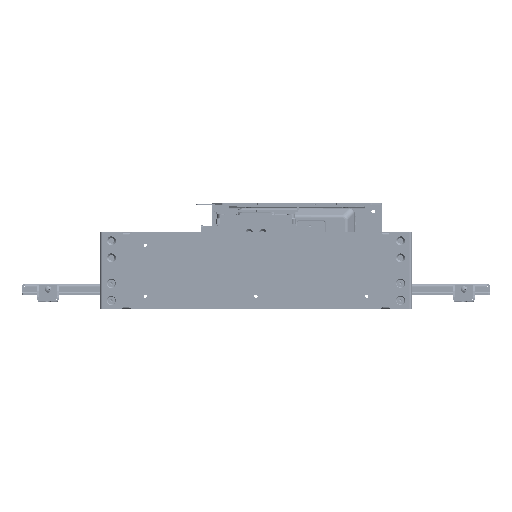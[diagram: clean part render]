
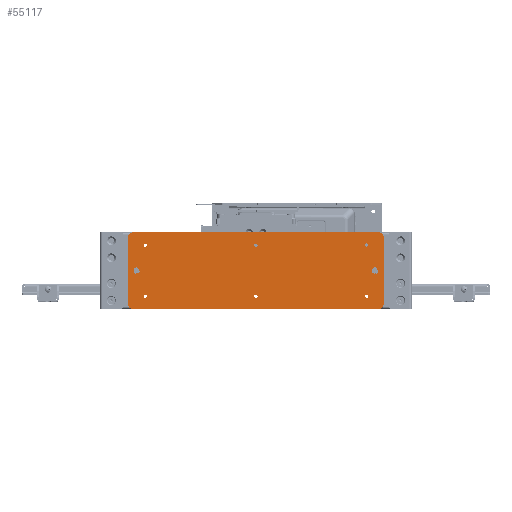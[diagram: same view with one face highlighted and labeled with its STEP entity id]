
A CAD part, top view. The second image highlights one B-rep face of the part: STEP entity #55117.
In plain terms, the highlighted planar face has unit normal (0, 0, 1) as drawn and (0, 0, -1) by its records, which use the part's own axes.
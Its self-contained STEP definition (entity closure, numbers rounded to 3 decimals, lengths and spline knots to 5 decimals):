
#5050=LINE('',#88676,#9993);
#5054=LINE('',#88685,#9997);
#5058=LINE('',#88694,#10001);
#5064=LINE('',#88718,#10007);
#9993=VECTOR('',#71876,1.);
#9997=VECTOR('',#71882,1.);
#10001=VECTOR('',#71888,1.);
#10007=VECTOR('',#71908,1.);
#18860=ORIENTED_EDGE('',*,*,#31558,.T.);
#18861=ORIENTED_EDGE('',*,*,#31559,.T.);
#18862=ORIENTED_EDGE('',*,*,#31560,.T.);
#18863=ORIENTED_EDGE('',*,*,#31561,.T.);
#18864=ORIENTED_EDGE('',*,*,#31562,.T.);
#18865=ORIENTED_EDGE('',*,*,#31563,.T.);
#18866=ORIENTED_EDGE('',*,*,#31541,.T.);
#18867=ORIENTED_EDGE('',*,*,#31543,.T.);
#18868=ORIENTED_EDGE('',*,*,#31546,.F.);
#18869=ORIENTED_EDGE('',*,*,#31564,.T.);
#18870=ORIENTED_EDGE('',*,*,#31536,.F.);
#18871=ORIENTED_EDGE('',*,*,#31565,.T.);
#18872=ORIENTED_EDGE('',*,*,#31532,.T.);
#18873=ORIENTED_EDGE('',*,*,#31566,.T.);
#18874=ORIENTED_EDGE('',*,*,#31528,.T.);
#18875=ORIENTED_EDGE('',*,*,#31567,.T.);
#31528=EDGE_CURVE('',#38398,#38399,#5050,.T.);
#31532=EDGE_CURVE('',#38402,#38403,#5054,.T.);
#31536=EDGE_CURVE('',#38406,#38407,#5058,.T.);
#31541=EDGE_CURVE('',#38411,#38411,#42525,.F.);
#31543=EDGE_CURVE('',#38413,#38413,#42527,.F.);
#31546=EDGE_CURVE('',#38416,#38417,#5064,.T.);
#31558=EDGE_CURVE('',#38424,#38424,#42538,.F.);
#31559=EDGE_CURVE('',#38425,#38425,#42539,.F.);
#31560=EDGE_CURVE('',#38426,#38426,#42540,.F.);
#31561=EDGE_CURVE('',#38427,#38427,#42541,.F.);
#31562=EDGE_CURVE('',#38428,#38428,#42542,.F.);
#31563=EDGE_CURVE('',#38429,#38429,#42543,.F.);
#31564=EDGE_CURVE('',#38416,#38407,#42544,.T.);
#31565=EDGE_CURVE('',#38406,#38402,#42545,.T.);
#31566=EDGE_CURVE('',#38403,#38398,#42546,.T.);
#31567=EDGE_CURVE('',#38399,#38417,#42547,.T.);
#38398=VERTEX_POINT('',#88677);
#38399=VERTEX_POINT('',#88678);
#38402=VERTEX_POINT('',#88686);
#38403=VERTEX_POINT('',#88687);
#38406=VERTEX_POINT('',#88695);
#38407=VERTEX_POINT('',#88696);
#38411=VERTEX_POINT('',#88706);
#38413=VERTEX_POINT('',#88711);
#38416=VERTEX_POINT('',#88717);
#38417=VERTEX_POINT('',#88719);
#38424=VERTEX_POINT('',#88740);
#38425=VERTEX_POINT('',#88742);
#38426=VERTEX_POINT('',#88744);
#38427=VERTEX_POINT('',#88746);
#38428=VERTEX_POINT('',#88748);
#38429=VERTEX_POINT('',#88750);
#42525=CIRCLE('',#62277,0.00396);
#42527=CIRCLE('',#62280,0.00396);
#42538=CIRCLE('',#62294,0.00246);
#42539=CIRCLE('',#62295,0.00246);
#42540=CIRCLE('',#62296,0.00246);
#42541=CIRCLE('',#62297,0.00246);
#42542=CIRCLE('',#62298,0.00246);
#42543=CIRCLE('',#62299,0.00246);
#42544=CIRCLE('',#62300,0.00635);
#42545=CIRCLE('',#62301,0.00635);
#42546=CIRCLE('',#62302,0.00635);
#42547=CIRCLE('',#62303,0.00635);
#45552=EDGE_LOOP('',(#18860));
#45553=EDGE_LOOP('',(#18861));
#45554=EDGE_LOOP('',(#18862));
#45555=EDGE_LOOP('',(#18863));
#45556=EDGE_LOOP('',(#18864));
#45557=EDGE_LOOP('',(#18865));
#45558=EDGE_LOOP('',(#18866));
#45559=EDGE_LOOP('',(#18867));
#45560=EDGE_LOOP('',(#18868,#18869,#18870,#18871,#18872,#18873,#18874,#18875));
#49688=FACE_BOUND('',#45552,.T.);
#49689=FACE_BOUND('',#45553,.T.);
#49690=FACE_BOUND('',#45554,.T.);
#49691=FACE_BOUND('',#45555,.T.);
#49692=FACE_BOUND('',#45556,.T.);
#49693=FACE_BOUND('',#45557,.T.);
#49694=FACE_BOUND('',#45558,.T.);
#49695=FACE_BOUND('',#45559,.T.);
#49696=FACE_BOUND('',#45560,.T.);
#52852=PLANE('',#62293);
#55117=ADVANCED_FACE('',(#49688,#49689,#49690,#49691,#49692,#49693,#49694,
#49695,#49696),#52852,.T.);
#62277=AXIS2_PLACEMENT_3D('',#88705,#71896,#71897);
#62280=AXIS2_PLACEMENT_3D('',#88710,#71902,#71903);
#62293=AXIS2_PLACEMENT_3D('',#88738,#71932,#71933);
#62294=AXIS2_PLACEMENT_3D('',#88739,#71934,#71935);
#62295=AXIS2_PLACEMENT_3D('',#88741,#71936,#71937);
#62296=AXIS2_PLACEMENT_3D('',#88743,#71938,#71939);
#62297=AXIS2_PLACEMENT_3D('',#88745,#71940,#71941);
#62298=AXIS2_PLACEMENT_3D('',#88747,#71942,#71943);
#62299=AXIS2_PLACEMENT_3D('',#88749,#71944,#71945);
#62300=AXIS2_PLACEMENT_3D('',#88751,#71946,#71947);
#62301=AXIS2_PLACEMENT_3D('',#88752,#71948,#71949);
#62302=AXIS2_PLACEMENT_3D('',#88753,#71950,#71951);
#62303=AXIS2_PLACEMENT_3D('',#88754,#71952,#71953);
#71876=DIRECTION('',(-1.,0.,0.));
#71882=DIRECTION('',(0.,-1.,0.));
#71888=DIRECTION('',(-1.,0.,0.));
#71896=DIRECTION('',(0.,0.,-1.));
#71897=DIRECTION('',(-1.,0.,0.));
#71902=DIRECTION('',(0.,0.,-1.));
#71903=DIRECTION('',(-1.,0.,0.));
#71908=DIRECTION('',(0.,-1.,0.));
#71932=DIRECTION('',(0.,0.,-1.));
#71933=DIRECTION('',(1.,0.,0.));
#71934=DIRECTION('',(0.,0.,-1.));
#71935=DIRECTION('',(-1.,0.,0.));
#71936=DIRECTION('',(0.,0.,-1.));
#71937=DIRECTION('',(-1.,0.,0.));
#71938=DIRECTION('',(0.,0.,-1.));
#71939=DIRECTION('',(-1.,0.,0.));
#71940=DIRECTION('',(0.,0.,-1.));
#71941=DIRECTION('',(-1.,0.,0.));
#71942=DIRECTION('',(0.,0.,-1.));
#71943=DIRECTION('',(-1.,0.,0.));
#71944=DIRECTION('',(0.,0.,-1.));
#71945=DIRECTION('',(-1.,0.,0.));
#71946=DIRECTION('',(0.,0.,-1.));
#71947=DIRECTION('',(-1.,0.,0.));
#71948=DIRECTION('',(0.,0.,-1.));
#71949=DIRECTION('',(-1.,0.,0.));
#71950=DIRECTION('',(0.,0.,-1.));
#71951=DIRECTION('',(-1.,0.,0.));
#71952=DIRECTION('',(0.,0.,-1.));
#71953=DIRECTION('',(-1.,0.,0.));
#88676=CARTESIAN_POINT('',(0.,-0.05715,-0.00229));
#88677=CARTESIAN_POINT('',(0.18415,-0.05715,-0.00229));
#88678=CARTESIAN_POINT('',(-0.18415,-0.05715,-0.00229));
#88685=CARTESIAN_POINT('',(0.1905,0.,-0.00229));
#88686=CARTESIAN_POINT('',(0.1905,0.0508,-0.00229));
#88687=CARTESIAN_POINT('',(0.1905,-0.0508,-0.00229));
#88694=CARTESIAN_POINT('',(0.,0.05715,-0.00229));
#88695=CARTESIAN_POINT('',(0.18415,0.05715,-0.00229));
#88696=CARTESIAN_POINT('',(-0.18415,0.05715,-0.00229));
#88705=CARTESIAN_POINT('',(-0.1778,0.,-0.00229));
#88706=CARTESIAN_POINT('',(-0.18176,0.,-0.00229));
#88710=CARTESIAN_POINT('',(0.1778,0.,-0.00229));
#88711=CARTESIAN_POINT('',(0.17384,0.,-0.00229));
#88717=CARTESIAN_POINT('',(-0.1905,0.0508,-0.00229));
#88718=CARTESIAN_POINT('',(-0.1905,0.,-0.00229));
#88719=CARTESIAN_POINT('',(-0.1905,-0.0508,-0.00229));
#88738=CARTESIAN_POINT('',(0.,0.,-0.00229));
#88739=CARTESIAN_POINT('',(-0.1651,0.0381,-0.00229));
#88740=CARTESIAN_POINT('',(-0.16756,0.0381,-0.00229));
#88741=CARTESIAN_POINT('',(0.,0.0381,-0.00229));
#88742=CARTESIAN_POINT('',(-0.00246,0.0381,-0.00229));
#88743=CARTESIAN_POINT('',(0.1651,0.0381,-0.00229));
#88744=CARTESIAN_POINT('',(0.16264,0.0381,-0.00229));
#88745=CARTESIAN_POINT('',(0.1651,-0.0381,-0.00229));
#88746=CARTESIAN_POINT('',(0.16264,-0.0381,-0.00229));
#88747=CARTESIAN_POINT('',(0.,-0.0381,-0.00229));
#88748=CARTESIAN_POINT('',(-0.00246,-0.0381,-0.00229));
#88749=CARTESIAN_POINT('',(-0.1651,-0.0381,-0.00229));
#88750=CARTESIAN_POINT('',(-0.16756,-0.0381,-0.00229));
#88751=CARTESIAN_POINT('',(-0.18415,0.0508,-0.00229));
#88752=CARTESIAN_POINT('',(0.18415,0.0508,-0.00229));
#88753=CARTESIAN_POINT('',(0.18415,-0.0508,-0.00229));
#88754=CARTESIAN_POINT('',(-0.18415,-0.0508,-0.00229));
